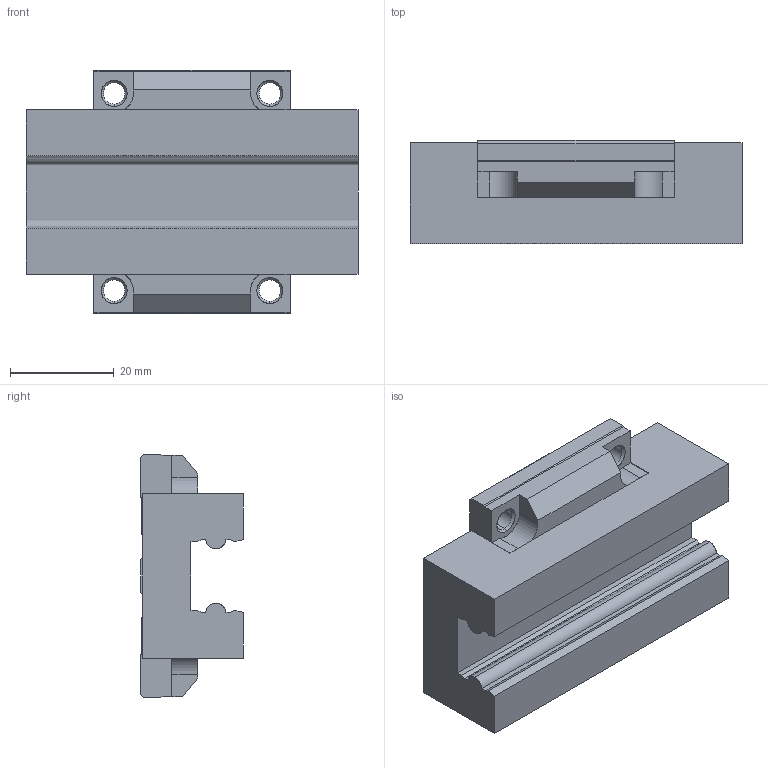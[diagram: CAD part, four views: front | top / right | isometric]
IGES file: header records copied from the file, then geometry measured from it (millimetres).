
Start section: SolidWorks IGES file using analytic representation for surfaces
Global section: file name: V:\webhosting\solidcomponents\www\company\out\15486715\FNS-1500\FNS-1500.igs; native system: SolidWorks 2010; preprocessor: SolidWorks 2010; author: CShared; date: 220519.021740; units: millimetre
Bounding box: 64 x 19.8 x 47 mm (x, y, z)
Surface area: 10712.4 mm2 (no closed solid volume)
Topology: 0 solids, 0 shells, 109 faces, 932 edges, 932 vertices
Faces by surface type: bspline 76, revolution 33
